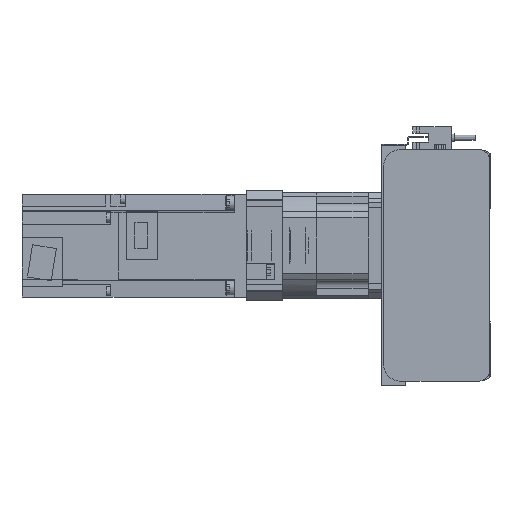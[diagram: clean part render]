
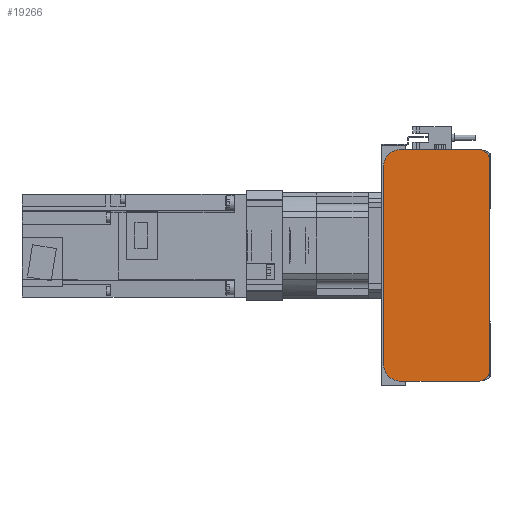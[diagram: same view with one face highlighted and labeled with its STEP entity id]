
A CAD part, left-side view. The second image highlights one B-rep face of the part: STEP entity #19266.
In plain terms, the highlighted planar face has unit normal (-1, 0, 0).
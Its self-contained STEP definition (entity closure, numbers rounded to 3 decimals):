
#1216=CIRCLE('',#21105,5.);
#1217=CIRCLE('',#21108,5.);
#1218=CIRCLE('',#21111,10.);
#1219=CIRCLE('',#21114,10.);
#5749=ORIENTED_EDGE('',*,*,#8713,.F.);
#5750=ORIENTED_EDGE('',*,*,#8870,.F.);
#5751=ORIENTED_EDGE('',*,*,#8862,.F.);
#5752=ORIENTED_EDGE('',*,*,#8860,.F.);
#5753=ORIENTED_EDGE('',*,*,#8503,.F.);
#5754=ORIENTED_EDGE('',*,*,#8859,.F.);
#5755=ORIENTED_EDGE('',*,*,#8857,.F.);
#5756=ORIENTED_EDGE('',*,*,#8855,.F.);
#5757=ORIENTED_EDGE('',*,*,#8853,.F.);
#5758=ORIENTED_EDGE('',*,*,#8851,.F.);
#8503=EDGE_CURVE('',#10566,#10567,#12274,.T.);
#8713=EDGE_CURVE('',#10667,#10668,#12417,.T.);
#8851=EDGE_CURVE('',#10668,#10751,#12546,.T.);
#8853=EDGE_CURVE('',#10751,#10752,#1216,.T.);
#8855=EDGE_CURVE('',#10752,#10753,#12549,.T.);
#8857=EDGE_CURVE('',#10753,#10754,#1217,.T.);
#8859=EDGE_CURVE('',#10754,#10566,#12552,.T.);
#8860=EDGE_CURVE('',#10567,#10755,#1218,.T.);
#8862=EDGE_CURVE('',#10755,#10756,#12554,.T.);
#8870=EDGE_CURVE('',#10756,#10667,#1219,.T.);
#10566=VERTEX_POINT('',#31608);
#10567=VERTEX_POINT('',#31610);
#10667=VERTEX_POINT('',#31995);
#10668=VERTEX_POINT('',#31997);
#10751=VERTEX_POINT('',#32274);
#10752=VERTEX_POINT('',#32278);
#10753=VERTEX_POINT('',#32282);
#10754=VERTEX_POINT('',#32286);
#10755=VERTEX_POINT('',#32292);
#10756=VERTEX_POINT('',#32296);
#12274=LINE('',#31609,#13997);
#12417=LINE('',#31996,#14140);
#12546=LINE('',#32273,#14269);
#12549=LINE('',#32281,#14272);
#12552=LINE('',#32289,#14275);
#12554=LINE('',#32295,#14277);
#13997=VECTOR('',#25548,1000.);
#14140=VECTOR('',#25977,1000.);
#14269=VECTOR('',#26236,1000.);
#14272=VECTOR('',#26245,1000.);
#14275=VECTOR('',#26254,1000.);
#14277=VECTOR('',#26262,1000.);
#15683=EDGE_LOOP('',(#5749,#5750,#5751,#5752,#5753,#5754,#5755,#5756,#5757,
#5758));
#17332=FACE_BOUND('',#15683,.T.);
#18247=PLANE('',#21115);
#19266=ADVANCED_FACE('',(#17332),#18247,.F.);
#21105=AXIS2_PLACEMENT_3D('',#32277,#26240,#26241);
#21108=AXIS2_PLACEMENT_3D('',#32285,#26249,#26250);
#21111=AXIS2_PLACEMENT_3D('',#32291,#26257,#26258);
#21114=AXIS2_PLACEMENT_3D('',#32309,#26272,#26273);
#21115=AXIS2_PLACEMENT_3D('',#32310,#26274,#26275);
#25548=DIRECTION('',(0.,1.,0.));
#25977=DIRECTION('',(0.,-1.,0.));
#26236=DIRECTION('',(0.,-0.942,-0.336));
#26240=DIRECTION('',(1.,0.,0.));
#26241=DIRECTION('',(0.,0.,-1.));
#26245=DIRECTION('',(0.,0.,-1.));
#26249=DIRECTION('',(1.,0.,0.));
#26250=DIRECTION('',(0.,0.,-1.));
#26254=DIRECTION('',(0.,0.942,-0.336));
#26257=DIRECTION('',(1.,0.,0.));
#26258=DIRECTION('',(0.,0.,-1.));
#26262=DIRECTION('',(0.,0.,1.));
#26272=DIRECTION('',(1.,0.,0.));
#26273=DIRECTION('',(0.,0.,-1.));
#26274=DIRECTION('',(1.,0.,0.));
#26275=DIRECTION('',(0.,0.,-1.));
#31608=CARTESIAN_POINT('',(-10.,6.,-67.5));
#31609=CARTESIAN_POINT('',(-10.,6.,-67.5));
#31610=CARTESIAN_POINT('',(-10.,52.,-67.5));
#31995=CARTESIAN_POINT('',(-10.,52.,67.5));
#31996=CARTESIAN_POINT('',(-10.,52.,67.5));
#31997=CARTESIAN_POINT('',(-10.,6.,67.5));
#32273=CARTESIAN_POINT('',(-10.,6.,67.5));
#32274=CARTESIAN_POINT('',(-10.,3.822,66.724));
#32277=CARTESIAN_POINT('',(-10.,5.5,62.014));
#32278=CARTESIAN_POINT('',(-10.,0.5,62.014));
#32281=CARTESIAN_POINT('',(-10.,0.5,62.014));
#32282=CARTESIAN_POINT('',(-10.,0.5,-62.014));
#32285=CARTESIAN_POINT('',(-10.,5.5,-62.014));
#32286=CARTESIAN_POINT('',(-10.,3.822,-66.724));
#32289=CARTESIAN_POINT('',(-10.,3.822,-66.724));
#32291=CARTESIAN_POINT('',(-10.,52.,-57.5));
#32292=CARTESIAN_POINT('',(-10.,62.,-57.5));
#32295=CARTESIAN_POINT('',(-10.,62.,-57.5));
#32296=CARTESIAN_POINT('',(-10.,62.,57.5));
#32309=CARTESIAN_POINT('',(-10.,52.,57.5));
#32310=CARTESIAN_POINT('',(-10.,5.5,62.014));
